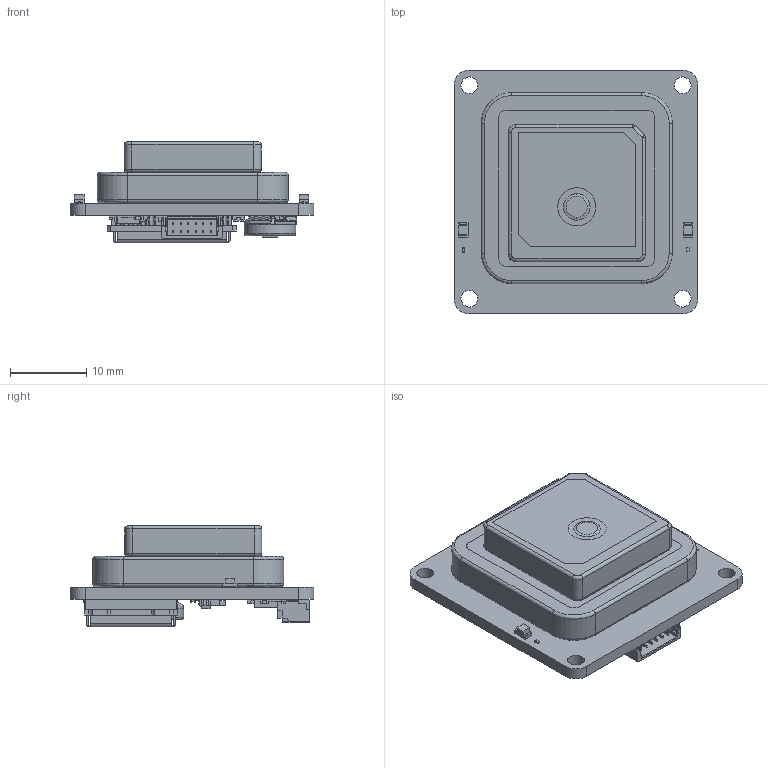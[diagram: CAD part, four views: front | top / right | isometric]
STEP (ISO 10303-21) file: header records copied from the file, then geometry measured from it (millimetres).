
FILE_DESCRIPTION(('KiCad electronic assembly'),'2;1');
FILE_NAME('ORBIT-NANAO-X10.step','2025-11-29T22:40:31',('Pcbnew'),( 'Kicad'),'Open CASCADE STEP processor 7.8','KiCad to STEP converter' ,'Unknown');
FILE_SCHEMA(('AUTOMOTIVE_DESIGN { 1 0 10303 214 1 1 1 1 }'));
Length unit declared in the file: millimetre
Products named in the file (38): ORBIT-NANAO-X10 1; LED_0805_2012Metric; R_0201_0603Metric; ANT-GNCP-TH258L15; User Library-Balun2450FB15L0001; 0D568EE0-0097-4BE9-8E31-DD5E3AD6DAAB; PMEG6010CEJ,115; SOT323F step; C_0201_0603Metric; C_0402_1005Metric; LGA-16_3x3mm_P0.5mm; LGA_16_3x3mm_P05mm; RT9080-33GJ5; ASSEMBLY; NEO-F9P-15B; SOT-23; SOT_23; ESD7104MUTAG; ESD8104MUTAG; PESD0402-140; IND_1608_TDK; part; MSS1P4-M3_89A; SS1P3L; MS621FE-FL11E; SKY55951-11; SM06B-SRSS-TB; SM06B-SRSS-TB(LF)(SN); _autosave-Orbit-NANO-SERIAL_PCB
Assembly tree (54 placements, depth 3):
  ORBIT-NANAO-X10 1
    LED_0805_2012Metric  x2
      LED_0805_2012Metric
    R_0201_0603Metric  x5
      R_0201_0603Metric
    ANT-GNCP-TH258L15
      ANT-GNCP-TH258L15
    User Library-Balun2450FB15L0001  x2
      0D568EE0-0097-4BE9-8E31-DD5E3AD6DAAB
    PMEG6010CEJ,115
      SOT323F step
    C_0201_0603Metric
      C_0201_0603Metric
    C_0402_1005Metric  x12
      C_0402_1005Metric
    LGA-16_3x3mm_P0.5mm
      LGA_16_3x3mm_P05mm
    RT9080-33GJ5
      ASSEMBLY
    NEO-F9P-15B
      NEO-F9P-15B
    SOT-23
      SOT_23
    ESD7104MUTAG
      ESD8104MUTAG
    PESD0402-140
      PESD0402-140
    IND_1608_TDK
      part
    MSS1P4-M3_89A
      SS1P3L
    MS621FE-FL11E
      MS621FE-FL11E
    SKY55951-11
      SKY55951-11
    SM06B-SRSS-TB
      SM06B-SRSS-TB(LF)(SN)
    _autosave-Orbit-NANO-SERIAL_PCB
Bounding box: 32 x 32 x 13.36 mm (x, y, z)
Volume: 5964.2 mm3; surface area: 7732.6 mm2
Topology: 102 solids, 102 shells, 2607 faces, 6629 edges, 4229 vertices
Faces by surface type: plane 1859, cylinder 605, torus 62, bspline 45, sphere 32, cone 4
Full cylindrical faces by diameter (mm): 0.2 x1, 0.35 x1, 1.03 x1, 2.2 x4
Entity records: 65439 total; most frequent: CARTESIAN_POINT 11001, ORIENTED_EDGE 10016, DIRECTION 9631, EDGE_CURVE 5008, LINE 4165, VECTOR 4165, VERTEX_POINT 3211, AXIS2_PLACEMENT_3D 2733
